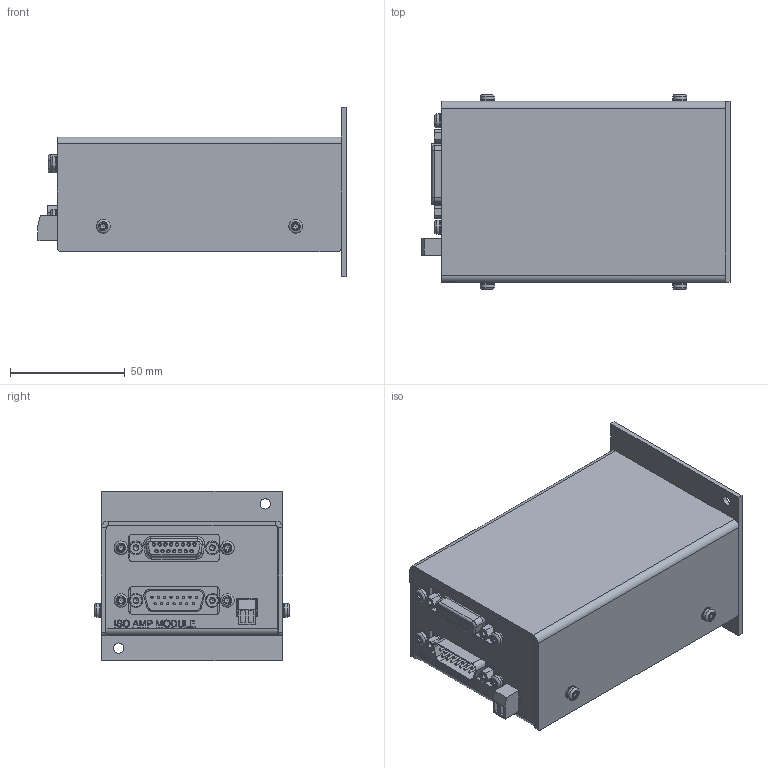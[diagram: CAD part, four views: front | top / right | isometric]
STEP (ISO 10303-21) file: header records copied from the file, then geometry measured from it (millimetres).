
FILE_DESCRIPTION(/* description */ (''),/* implementation_level */ '2;1');
FILE_NAME(/* name */ 'A:\Data\ISO AMP\step file\Iso amp module wall mount.stp',/* time_stamp */ '2021-01-05T16:23:34+01:00',/* author */ ('Delta'),/* organization */ (''),/* preprocessor_version */ 'ST-DEVELOPER v17.2',/* originating_system */ 'Autodesk Inventor 2019',/* authorisation */ '');
FILE_SCHEMA (('AUTOMOTIVE_DESIGN { 1 0 10303 214 3 1 1 }'));
Length unit declared in the file: millimetre
Products named in the file (1): Iso amp module wall mount
Bounding box: 134.5 x 85.1 x 74 mm (x, y, z)
Volume: 501540.8 mm3; surface area: 49873.2 mm2
Topology: 1 solids, 1 shells, 784 faces, 1837 edges, 1139 vertices
Faces by surface type: plane 500, cylinder 125, cone 68, bspline 62, torus 29
Full cylindrical faces by diameter (mm): 1 x15, 1.1 x15, 2.156 x4, 2.5 x1, 2.9 x2, 3.5 x3, 4.1 x2, 4.5 x2, 5.5 x3, 6 x20
Entity records: 23410 total; most frequent: CARTESIAN_POINT 5028, ORIENTED_EDGE 3644, DIRECTION 3511, EDGE_CURVE 1822, AXIS2_PLACEMENT_3D 1214, VERTEX_POINT 1139, LINE 1083, VECTOR 1083
